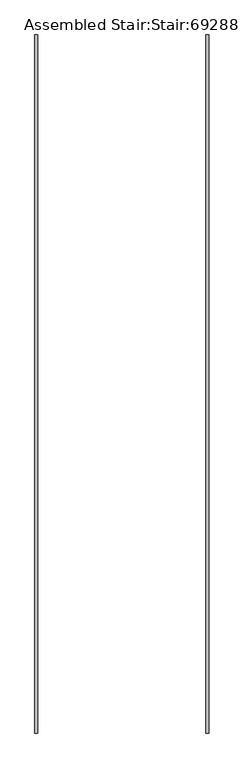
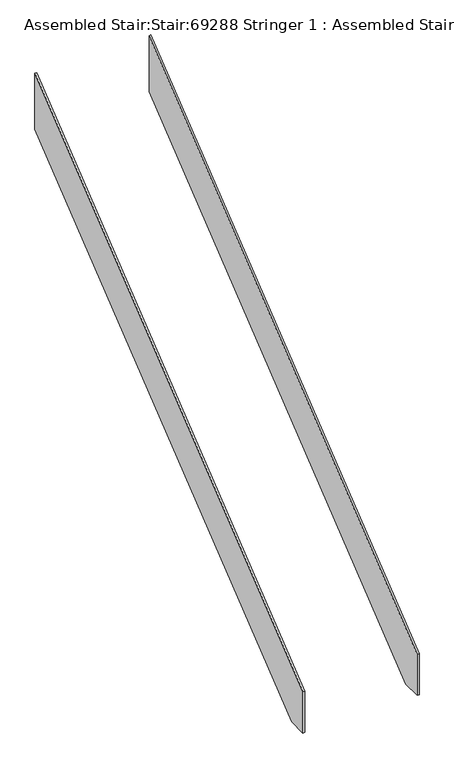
"""IFC4 building model written with IfcOpenShell, lengths in millimetres: stair geometry, Assembled Stair:Stair:69288 Stringer 1 : Assembled Stair:Stair:69288 Stringer 1."""

from ifc_helpers import new_model, si_unit, frame, origin, place, context, project, spatial, polyline, outline, extrude, source, transform, mapped, element, save


def assembled_stair_stair_69288_stringer_1_assembled_stair_stair_aace1262(model_context):
    return source(origin(), model_context, "Body", "SweptSolid", [
        extrude(outline(polyline([(-25176.0232476, 0.0), (-25324.6322236, 0.0), (-25324.6322236, 329.4817026), (-21804.6322236, 3153.0111144), (-21804.6322236, 2704.3243508), (-25176.0232476, 0.0)])), frame((30199.8089026, 0.0, 0.0), z_axis=(1.0, 0.0, 0.0), x_axis=(0.0, 1.0, 0.0)), (0.0, 0.0, 1.0), 15.0),
        extrude(outline(polyline([(-25176.0232476, 0.0), (-25324.6322236, 0.0), (-25324.6322236, 329.4817026), (-21804.6322236, 3153.0111144), (-21804.6322236, 2704.3243508), (-25176.0232476, 0.0)])), frame((29334.8089026, 0.0, 0.0), z_axis=(1.0, 0.0, 0.0), x_axis=(0.0, 1.0, 0.0)), (0.0, 0.0, 1.0), 15.0),
    ])


if __name__ == "__main__":
    model = new_model("IFC4")
    model_context = context("Model", 3, world=origin())
    ifc_project = project(units=[si_unit("LENGTHUNIT", "METRE", prefix="MILLI")], contexts=[model_context])
    site = spatial("IfcSite", under=ifc_project)
    building = spatial("IfcBuilding", under=site)
    placement = place(None, origin())
    assembled_stair_stair_69288_stringer_1_assembled_stair_stair_shape = assembled_stair_stair_69288_stringer_1_assembled_stair_stair_aace1262(model_context)
    element("IfcStair", 1, ObjectType="Assembled Stair:Stair:69288 Stringer 1 : Assembled Stair:Stair:69288 Stringer 1", at=placement, inside=building, context=model_context, shape_type="MappedRepresentation", body=[
        mapped(assembled_stair_stair_69288_stringer_1_assembled_stair_stair_shape, transform((0.0, 0.0, 0.0), x_axis=(1.0, 0.0, 0.0), y_axis=(0.0, 1.0, 0.0), z_axis=(0.0, 0.0, 1.0))),
    ])
    save(model, "model.ifc")
